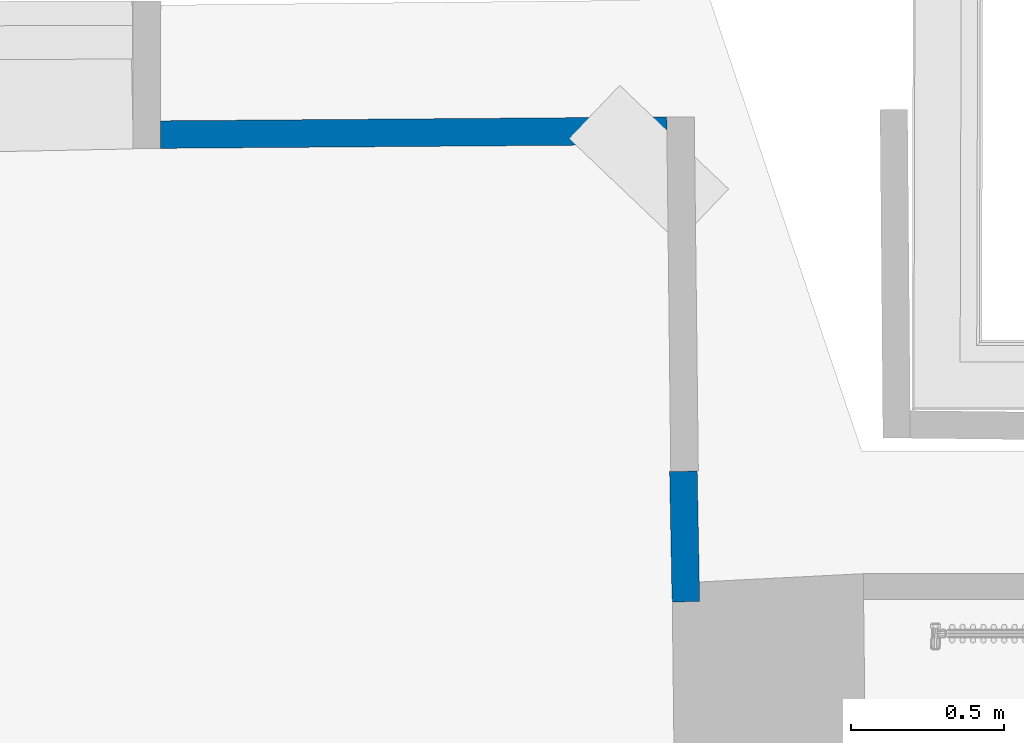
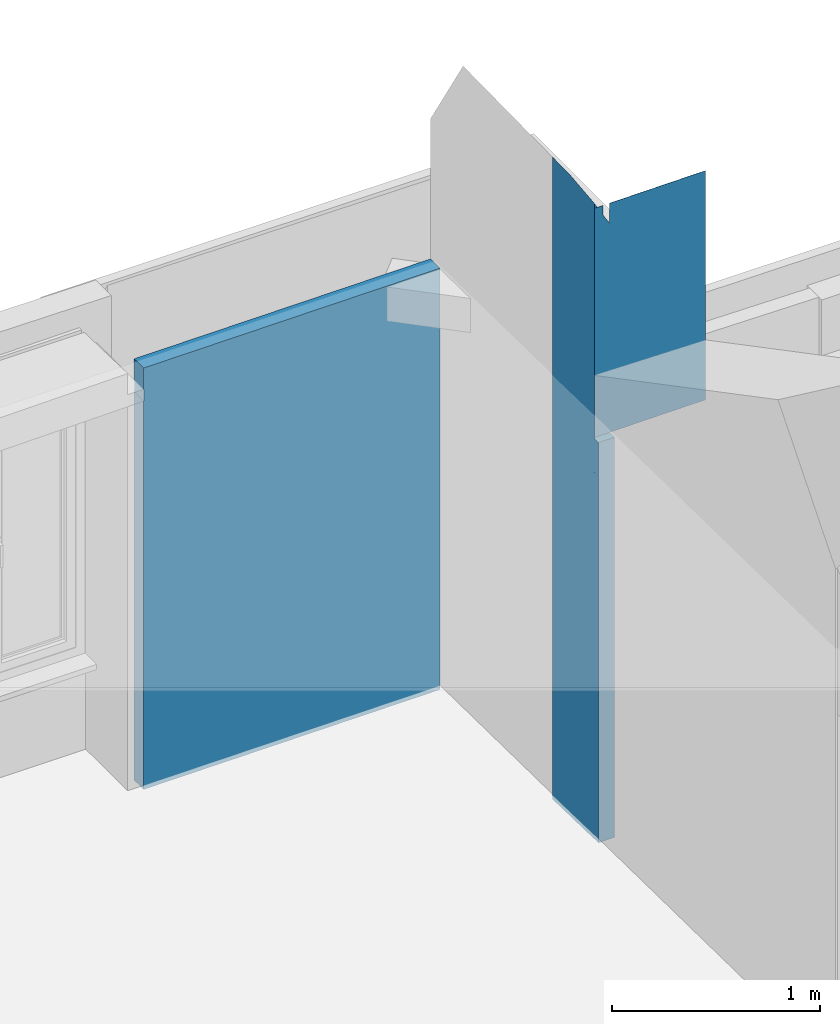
# One storey, part 58 of 72: 2 walls.
"""IFC2X3 building model written with IfcOpenShell, lengths in centimetres."""

from ifc_helpers import new_model, entity, si_unit, converted_unit, direction, frame, origin, origin_with_axes, place, context, subcontext, project, spatial, faceted_brep, material, layer, layer_set, layer_usage, type_object, element, save


model = new_model("IFC2X3")

# Units and contexts
model_context = context("Model", 3, precision=0.0001, world=origin(), true_north=direction((0.225632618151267, 0.974212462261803, 0.0)))
body_context = subcontext(model_context, "Body", "Model", "MODEL_VIEW")
ifc_project = project(units=[si_unit("LENGTHUNIT", "METRE", prefix="CENTI"), si_unit("AREAUNIT", "SQUARE_METRE", prefix="CENTI"), si_unit("VOLUMEUNIT", "CUBIC_METRE", prefix="CENTI"), converted_unit("PLANEANGLEUNIT", "DEGREE", entity("IfcRatioMeasure", 0.0174532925), si_unit("PLANEANGLEUNIT", "RADIAN"), dimensions=[0, 0, 0, 0, 0, 0, 0])], contexts=[model_context])

# Site, building, storey
site_placement = place(None, origin_with_axes())
site = spatial("IfcSite", under=ifc_project, at=site_placement, Name="Default Site", CompositionType="ELEMENT")
building_placement = place(site_placement, origin_with_axes())
building = spatial("IfcBuilding", under=site, at=building_placement, Name="Default Building", CompositionType="ELEMENT")
storey_placement = place(building_placement, frame((0.0, 0.0, 853.910374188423), z_axis=(0.0, 0.0, 1.0), x_axis=(1.0, 0.0, 0.0)))
storey = spatial("IfcBuildingStorey", under=building, at=storey_placement, Name="Niveau 2", CompositionType="ELEMENT", Elevation=853.910374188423)

# Walls
ifc_material = material(Name="<aucun>")
ifc_layer = layer(ifc_material, 9.0)
ifc_layer_set = layer_set([ifc_layer], Name="default")
ifc_layer_usage_1 = layer_usage(ifc_layer_set, "AXIS2", "POSITIVE", -4.5)
wall_type = type_object("IfcWallType", Name="default 90", PredefinedType="NOTDEFINED", material=ifc_layer_set)
wall_1_placement = place(storey_placement, frame((-726.540963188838, 553.326745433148, 1.4210854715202e-12), z_axis=(0.0, 0.0, 1.0), x_axis=(-0.0186533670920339, 0.999826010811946, 0.0)))
element("IfcWall", 1, at=wall_1_placement, inside=storey, type_object=wall_type, material=ifc_layer_usage_1, Name="Enveloppe 167023", context=body_context, shape_type="Brep", body=[
    faceted_brep([(-0.925945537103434, 4.40912093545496, -2.33888636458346e-05), (-4.75462434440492, 4.43660004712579, -2.33888636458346e-05), (-4.75462434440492, 4.43660004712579, 235.000014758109), (-0.925945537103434, 4.40912093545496, 235.000014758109), (-0.925945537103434, 4.40912093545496, 228.000045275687), (-0.925945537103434, 4.40912093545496, 215.000033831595), (-0.925945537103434, 4.40912093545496, 210.000014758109), (-0.925945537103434, 4.40912093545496, 169.000030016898), (-0.925945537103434, 4.40912093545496, 2.00002238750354), (-0.536496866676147, 4.40632579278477, 228.000045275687), (-0.536496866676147, 4.40632579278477, 215.000033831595), (-0.536496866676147, 4.40632579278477, 210.000014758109), (-0.536496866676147, 4.40632579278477, 169.000030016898), (-0.536496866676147, 4.40632579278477, 2.00002238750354), (-0.536496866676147, 4.40632579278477, -2.33888636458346e-05), (37.8242709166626, 4.49998965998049, -2.33888636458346e-05), (21.8201670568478, 4.49998966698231, -2.33888636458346e-05), (21.8201670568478, 4.49998966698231, 376.45690486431), (37.8242709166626, 4.49998965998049, 377.167106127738), (-0.0018388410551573, 4.49999802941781, -2.33888636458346e-05), (-0.535894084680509, 4.49999802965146, -2.33888636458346e-05), (-0.535894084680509, 4.49999802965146, 2.00002238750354), (-0.535894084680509, 4.49999802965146, 169.000030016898), (-0.535894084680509, 4.49999802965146, 210.000014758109), (-0.535894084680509, 4.49999802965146, 215.000033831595), (-0.535894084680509, 4.49999802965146, 228.000045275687), (-0.535894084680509, 4.49999802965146, 373.367190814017), (-0.0018388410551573, 4.49999802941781, 373.441005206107), (-0.0379936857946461, -0.891481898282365, 236.999965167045), (-0.0379936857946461, -0.891481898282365, 235.000014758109), (-0.137985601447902, -0.890488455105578, 235.000014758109), (-0.137985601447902, -0.890488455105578, 236.999965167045), (21.8201670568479, 4.50002002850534, -2.33888636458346e-05), (-0.00183884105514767, 4.5000200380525, -2.33888636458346e-05), (-0.00183884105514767, 4.5000200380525, 373.441005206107), (21.8201670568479, 4.50002002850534, 376.45690486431), (1.41062036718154e-05, 4.40248098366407, -2.33888636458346e-05), (-0.00241808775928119, 4.40249843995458, 235.000014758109), (-0.00241808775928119, 4.40249843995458, 236.999965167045), (-0.00241808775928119, 4.40249843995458, 369.601130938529), (-0.00241808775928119, 4.40249843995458, 373.272109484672), (1.41062036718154e-05, 4.40248098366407, 369.601130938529), (1.41062036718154e-05, 4.40248098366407, 236.999965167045), (1.41062036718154e-05, 4.40248098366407, 235.000014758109), (-0.53589408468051, 4.49999406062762, 2.00002238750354), (-0.925394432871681, 4.49999406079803, 2.00002238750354), (-0.925394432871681, 4.49999406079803, 169.000030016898), (-0.53589408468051, 4.49999406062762, 169.000030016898), (-0.53589408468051, 4.49999406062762, 210.000014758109), (-0.925394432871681, 4.49999406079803, 210.000014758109), (-0.925394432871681, 4.49999406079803, 215.000033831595), (-0.53589408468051, 4.49999406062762, 215.000033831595), (-0.53589408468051, 4.49999406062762, 228.000045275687), (-0.925394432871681, 4.49999406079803, 228.000045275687), (-0.925394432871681, 4.49999406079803, 373.31330821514), (-0.53589408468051, 4.49999406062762, 373.367190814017), (-0.163882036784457, -4.49999099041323, 369.601130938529), (-0.0638719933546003, -4.49999099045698, 369.601130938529), (-0.0638719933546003, -4.49999099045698, 357.851195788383), (-0.163882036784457, -4.49999099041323, 357.837367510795), (2.27718606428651, -4.49998718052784, -2.33888636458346e-05), (26.4483566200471, -4.49998719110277, -2.33888636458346e-05), (26.4483566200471, -4.49998719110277, 361.51549861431), (2.27718606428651, -4.49998718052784, 358.174777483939), (-4.81876570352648, -4.49999378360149, -2.33888636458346e-05), (-0.163882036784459, -4.49999378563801, -2.33888636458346e-05), (-0.163882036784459, -4.49999378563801, 235.000014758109), (-4.81876570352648, -4.49999378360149, 235.000014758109), (-0.0999825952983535, 4.40320197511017, 271.774745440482), (-0.536496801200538, 4.40633491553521, 272.001719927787), (-0.536496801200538, 4.40633491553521, 235.000014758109), (-0.0999825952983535, 4.40320197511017, 235.000014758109), (-0.0999825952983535, 4.40320197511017, 373.25980708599), (-0.536496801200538, 4.40633491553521, 373.204970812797), (-0.0999825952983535, 4.40320197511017, 369.601130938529), (-0.00241822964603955, 4.40247867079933, 373.272109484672), (-0.0999827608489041, 4.40317890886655, 373.25980708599), (-0.0999827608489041, 4.40317890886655, 369.601130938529), (-0.00241822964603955, 4.40247867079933, 369.601130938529), (-0.00241822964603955, 4.40247867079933, 235.000014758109), (-0.00241822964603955, 4.40247867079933, 236.999965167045), (-0.0999827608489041, 4.40317890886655, 236.999965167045), (-0.0999827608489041, 4.40317890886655, 235.000014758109), (1.58202721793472, -4.49999009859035, 270.652366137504), (-0.0638719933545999, -4.49999009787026, 271.507716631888), (-0.0638719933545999, -4.49999009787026, -2.33888636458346e-05), (1.58202721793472, -4.49999009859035, -2.33888636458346e-05), (2.27718606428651, -4.49999009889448, -2.33888636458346e-05), (2.27718606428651, -4.49999009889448, 358.174777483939), (1.58202721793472, -4.49999009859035, 358.078647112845), (-0.0638719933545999, -4.49999009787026, 357.851195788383), (-0.0638719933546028, -4.49999685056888, 235.000014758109), (-0.16388203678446, -4.49999685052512, 235.000014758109), (-0.16388203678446, -4.49999685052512, -2.33888636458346e-05), (-0.0638719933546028, -4.49999685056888, -2.33888636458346e-05), (26.4483566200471, -4.50001136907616, -2.33888636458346e-05), (37.8242848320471, -4.50001137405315, -2.33888636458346e-05), (37.8242848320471, -4.50001137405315, 362.020183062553), (26.4483566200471, -4.50001136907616, 361.51549861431), (-0.00241822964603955, 4.40247867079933, -2.33888636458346e-05), (1.39643169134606e-05, 4.40246121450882, 235.000014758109), (1.39643169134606e-05, 4.40246121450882, 236.999965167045), (1.39643169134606e-05, 4.40246121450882, 369.601130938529), (1.39643169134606e-05, 4.40246121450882, 373.272395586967), (-0.536496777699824, 4.40633818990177, 272.001719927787), (-0.925945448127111, 4.40913333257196, 272.20418498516), (-0.925945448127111, 4.40913333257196, 235.000014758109), (-0.536496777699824, 4.40633818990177, 235.000014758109), (-0.536496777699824, 4.40633818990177, 373.204970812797), (-0.925945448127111, 4.40913333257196, 373.155951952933), (-0.548560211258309, -58.0952037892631, 235.000014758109), (-0.448563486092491, -58.0959214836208, 235.000014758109), (-0.448563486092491, -58.0959214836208, 270.21329448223), (-0.448563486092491, -58.0959214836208, 369.601130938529), (-0.548560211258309, -58.0952037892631, 369.601130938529), (-0.548560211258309, -58.0952037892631, 270.265269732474), (-0.0379936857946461, -0.891481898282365, 369.601130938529), (-0.137985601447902, -0.890488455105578, 369.601130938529), (-0.137985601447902, -0.890488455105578, 364.089847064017), (-0.0379936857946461, -0.891481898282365, 364.101958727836), (-4.79130345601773, -0.673651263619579, -2.33888636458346e-05), (-4.75462415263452, 4.43662676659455, -2.33888636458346e-05), (-0.536496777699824, 4.40633818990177, -2.33888636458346e-05), (-0.0999825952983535, 4.40320197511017, -2.33888636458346e-05), (-0.137985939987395, -0.890522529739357, -2.33888636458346e-05), (-2.63715650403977, -0.865691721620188, -2.33888636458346e-05), (-2.63529451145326, -0.69942440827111, -2.33888636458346e-05), (-2.63529451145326, -0.69942440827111, 235.000014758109), (-2.63715650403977, -0.865691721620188, 235.000014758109), (-0.137985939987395, -0.890522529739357, 235.000014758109), (-4.75462415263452, 4.43662676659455, 235.000014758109), (-4.79130345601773, -0.673651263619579, 235.000014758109), (-4.79130153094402, -0.673651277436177, -2.33888636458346e-05), (-4.79130153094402, -0.673651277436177, 235.000014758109), (2.3127860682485, -0.91487961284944, -2.33888636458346e-05), (24.7191106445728, -1.13746387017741, -2.33888636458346e-05), (24.7191083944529, -1.13749205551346, 367.097847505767), (2.31278559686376, -0.914885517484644, 364.386443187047), (2.27718429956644, -4.50000928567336, 358.174790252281), (-0.163882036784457, -4.49999099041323, -2.33888636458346e-05), (-0.163882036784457, -4.49999099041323, 235.000014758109), (-4.81876579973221, -4.499993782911, -2.33888636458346e-05), (-4.81876579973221, -4.499993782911, 235.000014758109), (37.824258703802, -1.26769148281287, -2.33888636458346e-05), (24.7192059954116, -1.13746564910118, -2.33888636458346e-05), (21.8201661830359, 4.49998688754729, 376.456924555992), (24.7192055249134, -1.13748349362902, 367.097746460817), (37.8242586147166, -1.26769486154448, 367.460134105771), (37.8242587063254, 4.49998965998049, -2.33888636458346e-05), (37.8242587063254, 4.49998965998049, 377.167106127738), (37.824258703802, -1.26769148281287, 367.460132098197), (-0.53589408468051, 4.49999406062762, -2.33888636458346e-05), (-0.0999848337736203, 4.40317393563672, 373.25982328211), (-0.00241805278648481, 4.40248088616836, 373.272108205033), (-0.0018391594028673, 4.49999404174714, 373.44100750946), (-0.535894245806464, 4.49999204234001, 373.367191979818), (-0.536470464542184, 4.4063380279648, 215.000033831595), (-0.536470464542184, 4.4063380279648, 228.000045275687), (-0.536496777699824, 4.40633818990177, 169.000030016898), (-0.536496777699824, 4.40633818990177, 210.000014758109), (-0.535920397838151, 4.49999422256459, 210.000014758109), (-0.535920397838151, 4.49999422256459, 169.000030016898), (-0.536496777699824, 4.40633818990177, 2.00002238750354), (-0.535920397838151, 4.49999422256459, 2.00002238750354), (-0.535920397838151, 4.49999422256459, -2.33888636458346e-05), (-0.0379936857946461, -0.891481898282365, -2.33888636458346e-05), (2.3127860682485, -0.91487961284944, 364.38643977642), (-0.0379966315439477, -0.891518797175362, 364.101980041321), (-0.0638734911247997, -4.50001561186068, 357.851206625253), (1.58202430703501, -4.50002656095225, 358.078668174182), (2.27718477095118, -4.50000338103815, 358.174786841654), (-0.0638719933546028, -4.49999685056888, 357.851195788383), (-0.0379951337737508, -0.891500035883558, 364.101969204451), (-0.137985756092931, -0.890520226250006, 364.089845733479), (-0.163882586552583, -4.49999787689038, 357.837371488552), (-0.163882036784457, -4.49999099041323, 271.559691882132), (-0.137976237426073, -0.890522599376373, 271.646857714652), (-0.137976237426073, -0.890522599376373, 235.000014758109), (-0.137976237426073, -0.890522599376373, 364.089847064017), (37.8242848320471, -4.50001819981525, -2.33888636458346e-05), (24.7191102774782, -1.13747779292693, 367.097744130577), (26.4483571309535, -4.4999919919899, 361.515391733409), (37.8242852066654, -4.50000399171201, 362.020174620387), (37.8242848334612, -1.26769148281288, -2.33888636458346e-05), (37.8242848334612, -1.26769148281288, 367.460132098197), (37.8242848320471, -4.50001819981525, 362.020183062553), (-0.0152035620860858, 2.28309334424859, -2.33888636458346e-05), (24.7192038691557, -1.13749228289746, 367.097846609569), (21.8201639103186, 4.49998061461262, 376.457022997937), (-0.00183939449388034, 4.49999109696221, 373.441009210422), (-0.00241828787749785, 4.40247794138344, 373.272109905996), (-0.0152047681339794, 2.28307823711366, 369.60113966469), (-0.0166535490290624, 2.2831684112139, 369.601130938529), (-0.00243437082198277, 4.40247877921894, 236.999965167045), (-0.00243437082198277, 4.40247877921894, 235.000014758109), (-0.925394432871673, 4.50001163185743, 2.00002238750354), (-0.925394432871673, 4.50001163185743, 169.000030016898), (-0.925953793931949, 4.4091209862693, 2.00002238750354), (-0.925953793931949, 4.4091209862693, 169.000030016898), (-0.925394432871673, 4.50001163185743, 210.000014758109), (-0.536496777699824, 4.40633818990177, 215.000033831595), (-0.925394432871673, 4.50001163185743, 215.000033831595), (-0.925953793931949, 4.4091209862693, 210.000014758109), (-0.925953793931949, 4.4091209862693, 215.000033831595), (-0.925394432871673, 4.50001163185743, 228.000045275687), (-0.536496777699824, 4.40633818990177, 228.000045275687), (-0.925945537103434, 4.40912093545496, 373.155951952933), (-0.536496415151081, 4.40634273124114, 373.204968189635), (-0.535893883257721, 4.49999658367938, 373.367189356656), (-0.925396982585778, 4.49997969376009, 373.313326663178), (-0.925953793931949, 4.4091209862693, 228.000045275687), (-0.925953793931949, 4.4091209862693, 235.000014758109), (-0.925953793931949, 4.4091209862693, 272.20418498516), (-0.925953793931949, 4.4091209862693, 373.155951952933), (-0.925394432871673, 4.50001163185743, 373.31330821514), (-0.448563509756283, -58.0959247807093, 235.000014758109), (-0.470794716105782, -47.2575475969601, 235.000014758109), (-0.370974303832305, -47.2881681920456, 235.000014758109), (-0.370974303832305, -47.2881681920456, 369.601130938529), (-0.470794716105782, -47.2575475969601, 369.601130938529), (-0.448563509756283, -58.0959247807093, 369.601130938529), (-0.470776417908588, -47.2575477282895, 270.527053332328), (-0.470776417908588, -47.2575477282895, 235.000014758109), (-0.470776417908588, -47.2575477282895, 369.601130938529), (-0.0638719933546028, -4.49999685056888, 369.601130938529), (-0.470794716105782, -47.2575475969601, 270.527053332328), (-0.163916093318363, -4.4999907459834, 271.559691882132), (-0.163916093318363, -4.4999907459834, 235.000014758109), (-0.163916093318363, -4.4999907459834, 369.601130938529), (-0.163916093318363, -4.4999907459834, 357.837367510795), (-0.137985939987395, -0.890522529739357, 369.601130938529), (-0.0166806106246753, 2.28316859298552, 369.601130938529), (-0.137985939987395, -0.890522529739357, 271.646857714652), (-0.099991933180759, 4.40320204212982, 271.774745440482), (-0.099991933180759, 4.40320204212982, 236.999965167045), (-0.137985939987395, -0.890522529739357, 236.999965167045), (-0.0166696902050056, 2.28316851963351, 369.601130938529), (-0.099991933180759, 4.40320204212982, 369.601130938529), (-0.137985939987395, -0.890522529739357, 364.089847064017), (-0.370974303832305, -47.2881681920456, 270.47431514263), (-0.448543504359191, -58.0959249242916, 270.21329448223), (-0.448543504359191, -58.0959249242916, 235.000014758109), (-0.448543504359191, -58.0959249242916, 369.601130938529), (-0.0638719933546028, -4.49999685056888, 271.507716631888), (-0.37097034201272, -47.2881682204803, 270.47431514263), (-0.37097034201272, -47.2881682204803, 235.000014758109), (-0.37097034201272, -47.2881682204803, 369.601130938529)], [[[0, 1, 2, 3, 4, 5, 6, 7, 8]], [[4, 9, 10, 5]], [[7, 6, 11, 12]], [[0, 8, 13, 14]], [[15, 16, 17, 18]], [[19, 20, 21, 22, 23, 24, 25, 26, 27]], [[28, 29, 30, 31]], [[32, 33, 34, 35]], [[36, 37, 38, 39, 40, 41, 42, 43]], [[44, 45, 46, 47]], [[48, 49, 50, 51]], [[52, 53, 54, 55]], [[56, 57, 58, 59]], [[60, 61, 62, 63]], [[64, 65, 66, 67]], [[68, 69, 70, 71]], [[72, 73, 69, 68, 74]], [[75, 76, 77, 78]], [[79, 80, 81, 82]], [[83, 84, 85, 86]], [[86, 87, 88, 89, 83]], [[89, 90, 84, 83]], [[91, 92, 93, 94]], [[95, 96, 97, 98]], [[99, 100, 101, 102, 103, 78, 80, 79]], [[104, 105, 106, 107]], [[108, 109, 105, 104]], [[110, 111, 112, 113, 114, 115]], [[116, 117, 118, 119]], [[120, 121, 0, 122, 123, 124, 125, 126]], [[127, 128, 129, 71, 107, 3, 130, 131]], [[121, 132, 133, 130]], [[60, 134, 135, 95]], [[98, 136, 137, 138]], [[126, 125, 124, 139, 64, 120]], [[131, 67, 140, 129, 128, 127]], [[120, 141, 142, 131]], [[143, 144, 32, 15]], [[18, 145, 146, 147]], [[143, 148, 149, 150]], [[151, 19, 99, 123, 122]], [[108, 152, 153, 154, 155]], [[52, 51, 156, 157]], [[158, 159, 160, 161]], [[122, 162, 163, 164]], [[123, 99, 165, 124]], [[129, 29, 79, 71]], [[60, 86, 94, 165, 134]], [[166, 167, 168, 169, 170]], [[139, 124, 165, 94]], [[171, 172, 173, 174]], [[175, 176, 177, 140]], [[59, 178, 176, 175]], [[179, 95, 144, 143]], [[150, 180, 181, 182]], [[179, 183, 184, 185]], [[165, 186, 36, 19, 32, 144, 134]], [[166, 187, 188, 189, 190, 191, 167]], [[75, 78, 192]], [[29, 28, 193, 194]], [[195, 44, 162, 8]], [[7, 158, 47, 196]], [[195, 197, 198, 196]], [[199, 48, 159, 6]], [[5, 200, 51, 201]], [[199, 202, 203, 201]], [[204, 52, 205, 4]], [[206, 207, 208, 209]], [[204, 210, 211, 212, 213, 214]], [[215, 110, 216, 217]], [[218, 219, 114, 220]], [[115, 221, 222, 110]], [[114, 223, 221, 115]], [[91, 217, 216, 140]], [[56, 219, 218, 224]], [[225, 226, 227, 216]], [[219, 228, 229, 226, 225]], [[230, 116, 231, 78, 74]], [[232, 233, 234, 235]], [[116, 119, 236]], [[230, 237, 233, 232, 238]], [[239, 240, 241, 217]], [[218, 242, 240, 239]], [[243, 244, 245, 91]], [[224, 246, 244, 243, 171]]]),
])
ifc_layer_usage_2 = layer_usage(ifc_layer_set, "AXIS2", "POSITIVE", -4.5)
wall_2_placement = place(storey_placement, frame((-898.005145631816, 701.144204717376, 1.4210854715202e-12), z_axis=(0.0, 0.0, 1.0), x_axis=(0.999971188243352, 0.00759096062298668, 0.0)))
element("IfcWall", 2, at=wall_2_placement, inside=storey, type_object=wall_type, material=ifc_layer_usage_2, Name="Enveloppe 172941", context=body_context, shape_type="Brep", body=[
    faceted_brep([(165.337760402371, 4.50001861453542, -2.33888638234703e-05), (44.688522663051, 4.50001862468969, -2.33888638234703e-05), (44.688522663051, 4.50001862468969, 224.999976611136), (165.337760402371, 4.50001861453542, 224.999976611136), (44.688522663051, 4.50000109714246, -2.33888638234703e-05), (17.6629981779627, 4.50000109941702, -2.33888638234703e-05), (17.6629981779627, 4.50000109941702, 224.999976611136), (44.688522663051, 4.50000109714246, 224.999976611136), (17.6629981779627, 4.50001544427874, -2.33888638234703e-05), (8.59558281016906, 4.50001544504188, -2.33888638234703e-05), (8.59558281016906, 4.50001544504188, 224.999976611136), (17.6629981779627, 4.50001544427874, 224.999976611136), (8.59558281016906, 4.4999905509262, -2.33888638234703e-05), (-3.59568304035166e-05, 4.49999055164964, -2.33888638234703e-05), (-3.59568304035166e-05, 4.49999055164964, 224.999976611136), (0.100007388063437, 4.49999055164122, 224.999976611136), (8.59558281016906, 4.4999905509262, 224.999976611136), (0.100007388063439, 4.50001174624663, 224.999976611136), (-3.59568304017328e-05, 4.50001174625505, 224.999976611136), (-3.59568304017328e-05, 4.50001174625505, 228.000045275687), (0.100007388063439, 4.50001174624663, 228.000045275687), (17.6629981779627, 4.50001862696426, 224.999976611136), (8.59558281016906, 4.50001862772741, 224.999976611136), (0.100007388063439, 4.50001862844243, 224.999976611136), (0.100007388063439, 4.50001862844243, 228.000045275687), (0.100007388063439, 4.50001862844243, 234.007525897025), (0.100007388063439, 4.50001862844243, 235.000014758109), (0.100007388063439, 4.50001862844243, 236.999965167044), (165.337760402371, 4.50001861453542, 236.999965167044), (0.100007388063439, 4.50001174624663, 235.000014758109), (-3.59568304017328e-05, 4.50001174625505, 235.000014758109), (-3.59568304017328e-05, 4.50001174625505, 236.999965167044), (0.100007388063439, 4.50001174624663, 236.999965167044), (-3.59568304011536e-05, 4.50001862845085, 236.999965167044), (-3.59568304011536e-05, 4.50001862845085, 247.500014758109), (165.337760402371, 4.50001861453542, 247.500014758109), (-0.0798963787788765, -4.4999939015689, -2.33888638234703e-05), (44.6539629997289, -4.49999390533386, -2.33888638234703e-05), (44.6539629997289, -4.49999390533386, 224.999976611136), (0.0999719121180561, -4.49999390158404, 224.999976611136), (-0.0798963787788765, -4.4999939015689, 224.999976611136), (44.6539629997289, -4.50001112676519, -2.33888638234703e-05), (165.372725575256, -4.50001113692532, -2.33888638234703e-05), (165.372725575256, -4.50001113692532, 224.999976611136), (44.6539629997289, -4.50001112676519, 224.999976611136), (0.0999719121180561, -4.49999390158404, 228.000045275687), (-0.0798963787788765, -4.4999939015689, 228.000045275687), (0.0999719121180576, -4.49997644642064, 224.999976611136), (44.653962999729, -4.49997645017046, 224.999976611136), (165.372725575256, -4.49997646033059, 224.999976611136), (165.372725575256, -4.49997646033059, 236.999965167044), (0.0999719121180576, -4.49997644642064, 236.999965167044), (0.0999719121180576, -4.49997644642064, 235.000014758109), (0.0999719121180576, -4.49997644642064, 234.007525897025), (0.0999719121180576, -4.49997644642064, 228.000045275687), (2.39319083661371e-05, -4.49998068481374, 235.000014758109), (0.0999719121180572, -4.49998068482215, 235.000014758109), (0.0999719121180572, -4.49998068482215, 236.999965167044), (2.39319083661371e-05, -4.49998068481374, 236.999965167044), (165.372725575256, -4.49998069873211, 236.999965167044), (165.372725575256, -4.49998069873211, 247.500014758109), (2.39319083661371e-05, -4.49998068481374, 247.500014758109), (-0.0318430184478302, 0.913043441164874, -2.33888638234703e-05), (0.59083257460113, -4.16203898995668, -2.33888638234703e-05), (9.66677948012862, -4.23165140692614, -2.33888638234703e-05), (-0.0799150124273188, -4.49999373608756, -2.33888638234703e-05), (-0.0799150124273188, -4.49999373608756, 224.999976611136), (-0.0318430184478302, 0.913043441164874, 224.999976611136), (165.372725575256, -4.49999684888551, -2.33888638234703e-05), (8.94684196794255, 1.63698165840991, -2.33888638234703e-05), (18.0160531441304, 1.62230591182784, -2.33888638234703e-05), (165.34986845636, 1.38380145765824, -2.33888638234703e-05), (165.349858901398, 1.38380142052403, -2.33888638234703e-05), (165.349858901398, 1.38380142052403, 224.999976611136), (165.372725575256, -4.49999684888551, 224.999976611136), (165.341368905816, 3.5745666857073, -2.33888638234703e-05), (165.337772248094, 4.50001866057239, -2.33888638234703e-05), (165.337772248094, 4.50001866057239, 224.999976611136), (165.341368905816, 3.5745666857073, 224.999976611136), (165.34135431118, 3.57456662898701, -2.33888638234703e-05), (165.34135431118, 3.57456662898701, 224.999976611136), (165.34986845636, 1.38380145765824, 224.999976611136), (-3.59568304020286e-05, 4.50000823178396, -2.33888638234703e-05), (-0.0318909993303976, 0.913043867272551, -2.33888638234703e-05), (-0.0318909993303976, 0.913043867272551, 224.999976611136), (-3.59568304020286e-05, 4.50000823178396, 224.999976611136), (-3.59568304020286e-05, 4.50000823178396, 228.000045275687), (-0.0799150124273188, -4.49999373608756, 228.000045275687), (-0.0318430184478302, 0.913043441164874, 228.000045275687), (-0.0318909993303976, 0.913043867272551, 228.000045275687), (165.341368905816, 3.5745666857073, 236.999965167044), (165.372749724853, -4.49999675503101, 236.999965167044), (165.372749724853, -4.49999675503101, 224.999976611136), (0.0999719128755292, 4.50001174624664, 234.007525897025), (0.0999719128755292, 4.50001174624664, 228.000045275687), (0.0999719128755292, 4.50001174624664, 235.000014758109), (165.341357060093, 3.57456663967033, 236.999965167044), (165.341357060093, 3.57456663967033, 224.999976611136), (-3.59568304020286e-05, 4.50000823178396, 235.000014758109), (-3.59575878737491e-05, -4.49998068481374, 235.000014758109), (-3.59575878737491e-05, -4.49998068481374, 236.999965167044), (-3.59568304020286e-05, 4.50000823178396, 236.999965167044), (-3.59568304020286e-05, 4.50000823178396, 247.500014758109), (165.372725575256, -4.49999684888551, 247.500014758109), (165.341368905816, 3.5745666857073, 247.500014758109), (-3.59575878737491e-05, -4.49998068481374, 247.500014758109), (165.341357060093, 3.57456663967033, 247.500014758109), (165.372749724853, -4.49999675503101, 247.500014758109)], [[[0, 1, 2, 3]], [[4, 5, 6, 7]], [[8, 9, 10, 11]], [[12, 13, 14, 15, 16]], [[17, 18, 19, 20]], [[3, 2, 21, 22, 23, 24, 25, 26, 27, 28]], [[29, 30, 31, 32]], [[28, 27, 33, 34, 35]], [[36, 37, 38, 39, 40]], [[41, 42, 43, 44]], [[40, 39, 45, 46]], [[47, 48, 49, 50, 51, 52, 53, 54]], [[55, 56, 57, 58]], [[58, 57, 59, 60, 61]], [[36, 62, 63, 64, 41]], [[62, 65, 66, 67]], [[68, 41, 64, 69, 70, 71]], [[68, 72, 73, 74]], [[0, 75, 4]], [[75, 76, 77, 78]], [[70, 8, 4, 75, 71]], [[71, 79, 80, 81]], [[69, 12, 8, 70]], [[69, 64, 63, 62, 82, 12]], [[82, 83, 84, 85]], [[54, 20, 86, 46]], [[67, 66, 87, 88]], [[85, 84, 89, 86]], [[90, 91, 92, 78]], [[53, 93, 94, 54]], [[52, 95, 93, 53]], [[28, 96, 97, 3]], [[55, 98, 29, 52]], [[98, 99, 100, 101]], [[102, 61, 103, 104, 35]], [[101, 100, 105, 102]], [[35, 106, 96, 28]], [[104, 107, 91, 90]]]),
])

save(model, "model.ifc")
